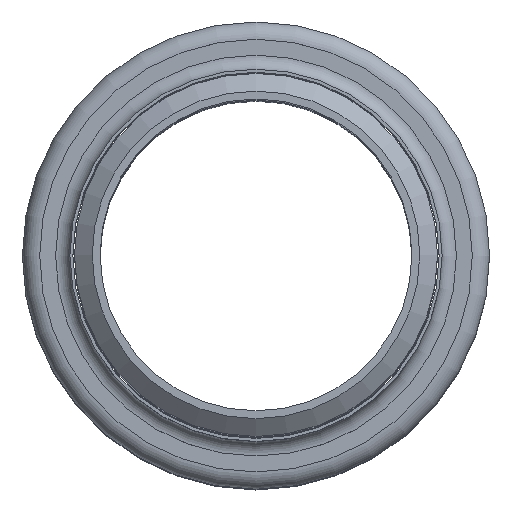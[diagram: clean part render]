
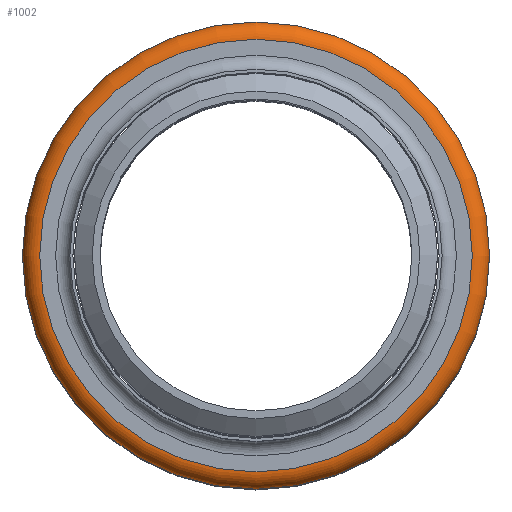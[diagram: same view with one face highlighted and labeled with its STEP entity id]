
A CAD part, top view. The second image highlights one B-rep face of the part: STEP entity #1002.
In plain terms, the highlighted toroidal (fillet/blend) face has major radius 43.51 mm and minor radius 3.48 mm.
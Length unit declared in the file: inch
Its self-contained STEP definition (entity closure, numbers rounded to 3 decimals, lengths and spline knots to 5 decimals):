
#88=TOROIDAL_SURFACE('',#1223,1.713,0.137);
#193=FACE_OUTER_BOUND('',#305,.T.);
#305=EDGE_LOOP('',(#834,#835,#836,#837));
#425=CIRCLE('',#1222,1.713);
#426=CIRCLE('',#1224,1.713);
#427=CIRCLE('',#1225,0.137);
#512=VERTEX_POINT('',#1899);
#513=VERTEX_POINT('',#1902);
#623=EDGE_CURVE('',#512,#512,#425,.T.);
#624=EDGE_CURVE('',#513,#513,#426,.T.);
#625=EDGE_CURVE('',#513,#512,#427,.T.);
#834=ORIENTED_EDGE('',*,*,#624,.F.);
#835=ORIENTED_EDGE('',*,*,#625,.T.);
#836=ORIENTED_EDGE('',*,*,#623,.T.);
#837=ORIENTED_EDGE('',*,*,#625,.F.);
#1002=ADVANCED_FACE('',(#193),#88,.T.);
#1222=AXIS2_PLACEMENT_3D('',#1900,#1577,#1578);
#1223=AXIS2_PLACEMENT_3D('',#1901,#1579,#1580);
#1224=AXIS2_PLACEMENT_3D('',#1903,#1581,#1582);
#1225=AXIS2_PLACEMENT_3D('',#1904,#1583,#1584);
#1577=DIRECTION('center_axis',(0.,0.,-1.));
#1578=DIRECTION('ref_axis',(1.,0.,0.));
#1579=DIRECTION('center_axis',(0.,0.,-1.));
#1580=DIRECTION('ref_axis',(-1.,0.,0.));
#1581=DIRECTION('center_axis',(0.,0.,-1.));
#1582=DIRECTION('ref_axis',(1.,0.,0.));
#1583=DIRECTION('center_axis',(0.,-1.,0.));
#1584=DIRECTION('ref_axis',(1.,0.,0.));
#1899=CARTESIAN_POINT('',(1.713,0.,-0.113));
#1900=CARTESIAN_POINT('Origin',(0.,0.,-0.113));
#1901=CARTESIAN_POINT('Origin',(0.,0.,-0.25));
#1902=CARTESIAN_POINT('',(1.713,0.,-0.387));
#1903=CARTESIAN_POINT('Origin',(0.,0.,-0.387));
#1904=CARTESIAN_POINT('Origin',(1.713,0.,-0.25));
